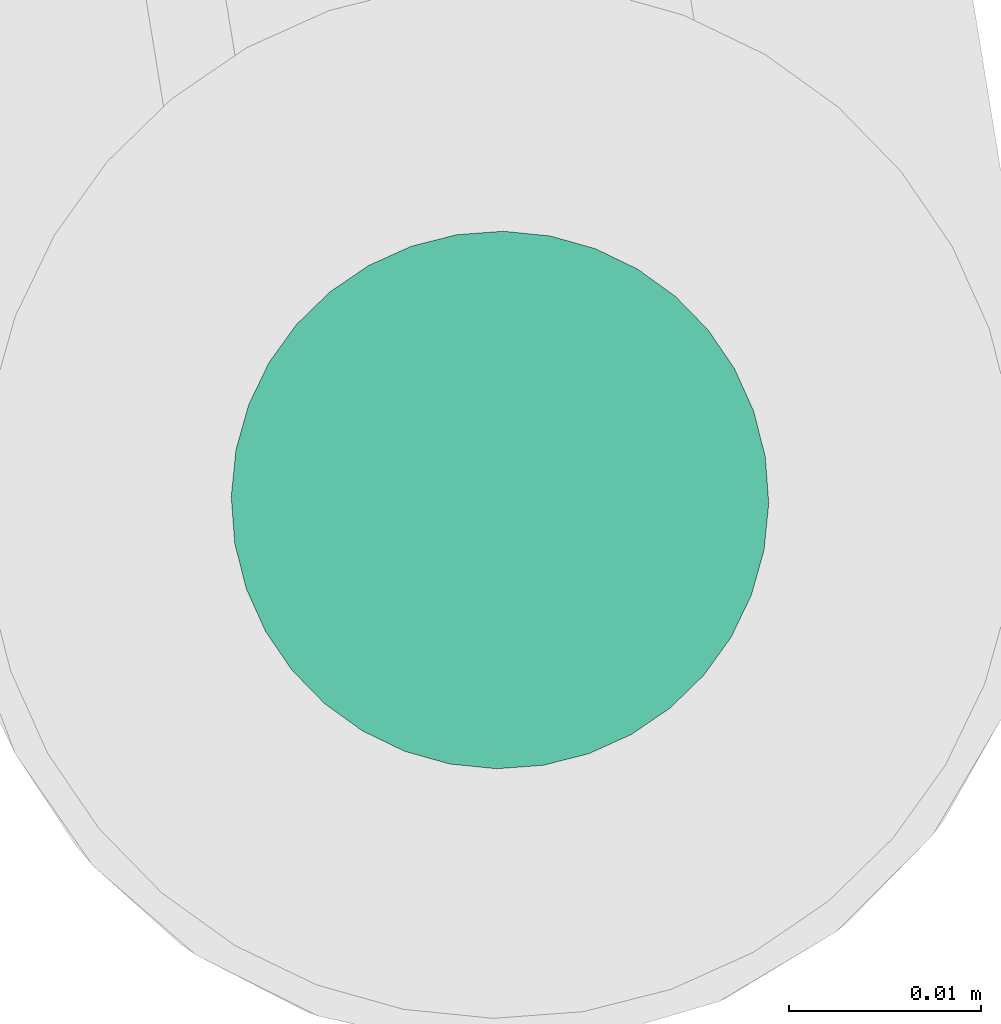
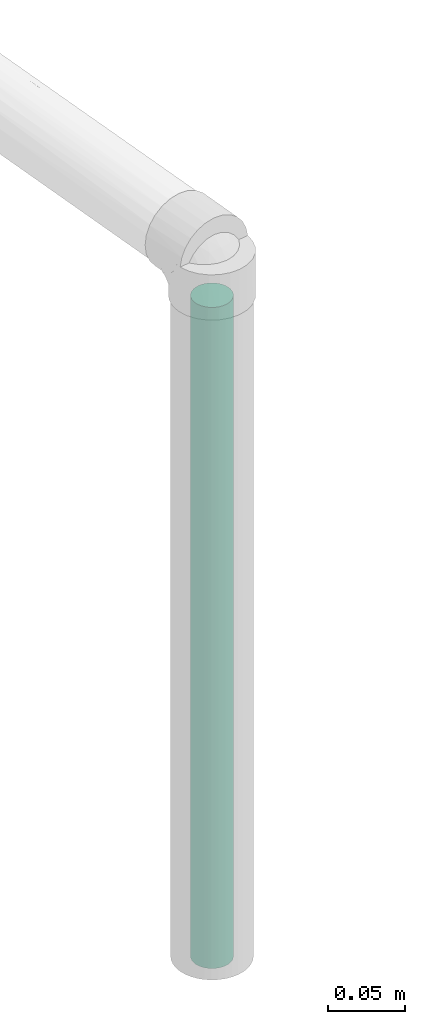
# One storey, part 54 of 56: 1 flow segment.
"""IFC2X3 building model written with IfcOpenShell, lengths in millimetres."""

from ifc_helpers import new_model, entity, si_unit, converted_unit, derived_unit, direction, frame, origin, origin_with_axes, place, context, subcontext, project, spatial, faceted_brep, material, type_object, element, save


model = new_model("IFC2X3")

# Units and contexts
model_context = context("Model", 3, precision=0.01, world=origin(), true_north=direction((6.12323399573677e-17, 1.0)))
plan_context = context("Plan", 3, precision=1e-05, world=origin_with_axes())
body_context = subcontext(model_context, "Body", "Model", "MODEL_VIEW")
ifc_project = project(units=[converted_unit("PLANEANGLEUNIT", "DEGREE", entity("IfcPositiveLengthMeasure", 0.0174532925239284), si_unit("PLANEANGLEUNIT", "RADIAN"), dimensions=[0, 0, 0, 0, 0, 0, 0]), si_unit("AREAUNIT", "SQUARE_METRE"), si_unit("LENGTHUNIT", "METRE", prefix="MILLI"), si_unit("MASSUNIT", "GRAM", prefix="KILO"), si_unit("POWERUNIT", "WATT"), si_unit("PRESSUREUNIT", "PASCAL", prefix="KILO"), si_unit("FORCEUNIT", "NEWTON", prefix="KILO"), si_unit("ELECTRICVOLTAGEUNIT", "VOLT"), si_unit("ELECTRICCURRENTUNIT", "AMPERE"), si_unit("THERMODYNAMICTEMPERATUREUNIT", "DEGREE_CELSIUS"), si_unit("TIMEUNIT", "SECOND"), si_unit("VOLUMEUNIT", "CUBIC_METRE"), derived_unit("LINEARVELOCITYUNIT", [(si_unit("LENGTHUNIT", "METRE"), 1), (si_unit("TIMEUNIT", "SECOND"), -1)]), derived_unit("VOLUMETRICFLOWRATEUNIT", [(si_unit("VOLUMEUNIT", "CUBIC_METRE"), 1), (si_unit("TIMEUNIT", "SECOND"), -1)]), derived_unit("THERMALTRANSMITTANCEUNIT", [(si_unit("POWERUNIT", "WATT"), 1), (si_unit("THERMODYNAMICTEMPERATUREUNIT", "KELVIN"), -1), (si_unit("AREAUNIT", "SQUARE_METRE"), -1)]), derived_unit("SOUNDPRESSUREUNIT", [(si_unit("PRESSUREUNIT", "PASCAL"), 1)])], contexts=[model_context, plan_context])

# Site, building, storey
site_placement = place(None, frame((-3.09682673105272e-06, 1.93776733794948e-05, 0.0), z_axis=(0.0, 0.0, 1.0), x_axis=(-0.160806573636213, 0.986985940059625, 0.0)))
site = spatial("IfcSite", under=ifc_project, at=site_placement, Name="Default", CompositionType="ELEMENT")
building_placement = place(site_placement, frame((0.0, 0.0, 0.0), z_axis=(0.0, 0.0, 1.0), x_axis=(1.0, -2.77555756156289e-17, 0.0)))
building = spatial("IfcBuilding", under=site, at=building_placement, Name="Bygning (endres i Project Information)", CompositionType="ELEMENT")
storey_placement = place(building_placement, frame((0.0, 0.0, 51360.0000000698), z_axis=(0.0, 0.0, 1.0), x_axis=(1.0, -2.77555756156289e-17, 0.0)))
storey = spatial("IfcBuildingStorey", under=building, at=storey_placement, Name="H01-Nivå D+0,36", CompositionType="ELEMENT", Elevation=51360.0000000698)

# Flow segment
ifc_material = material(Name="3103.001 KV")
pipe_segment_type = type_object("IfcPipeSegmentType", Name="Pipe Types:Kobberrør", PredefinedType="NOTDEFINED", material=ifc_material)
flow_segment_placement = place(storey_placement, frame((0.0, 0.0, 0.0), z_axis=(0.0, 0.0, 1.0), x_axis=(1.0, -2.77555756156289e-17, 0.0)))
element("IfcFlowSegment", 1, at=flow_segment_placement, inside=storey, type_object=pipe_segment_type, Name="Pipe Types:Kobberrør", ObjectType="Pipe Types:Kobberrør", context=body_context, shape_type="Brep", body=[
    faceted_brep([(993003.111795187, -384350.157958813, 3139.99999993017), (993002.899103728, -384352.589033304, 3139.99999993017), (993002.899103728, -384352.589033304, 3666.00000000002), (993003.111795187, -384350.157958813, 3666.00000000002), (993002.899103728, -384347.726884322, 3139.99999993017), (993002.899103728, -384347.726884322, 3666.00000000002), (993002.267491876, -384345.3696768, 3139.99999993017), (993002.267491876, -384345.3696768, 3666.00000000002), (993001.236150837, -384343.157958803, 3139.99999993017), (993001.236150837, -384343.157958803, 3666.00000000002), (992999.836417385, -384341.158932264, 3139.99999993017), (992999.836417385, -384341.158932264, 3666.00000000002), (992998.110821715, -384339.433336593, 3139.99999993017), (992998.110821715, -384339.433336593, 3666.00000000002), (992996.111795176, -384338.033603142, 3139.99999993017), (992996.111795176, -384338.033603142, 3666.00000000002), (992993.900077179, -384337.002262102, 3139.99999993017), (992993.900077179, -384337.002262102, 3666.00000000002), (992991.542869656, -384336.37065025, 3139.99999993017), (992991.542869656, -384336.37065025, 3666.00000000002), (992989.111795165, -384336.157958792, 3139.99999993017), (992989.111795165, -384336.157958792, 3666.00000000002), (992986.680720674, -384336.37065025, 3139.99999993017), (992986.680720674, -384336.37065025, 3666.00000000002), (992984.323513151, -384337.002262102, 3139.99999993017), (992984.323513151, -384337.002262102, 3666.00000000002), (992982.111795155, -384338.033603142, 3139.99999993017), (992982.111795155, -384338.033603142, 3666.00000000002), (992980.112768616, -384339.433336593, 3139.99999993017), (992980.112768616, -384339.433336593, 3666.00000000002), (992978.387172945, -384341.158932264, 3139.99999993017), (992978.387172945, -384341.158932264, 3666.00000000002), (992976.987439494, -384343.157958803, 3139.99999993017), (992976.987439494, -384343.157958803, 3666.00000000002), (992975.956098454, -384345.3696768, 3139.99999993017), (992975.956098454, -384345.3696768, 3666.00000000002), (992975.324486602, -384347.726884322, 3139.99999993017), (992975.324486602, -384347.726884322, 3666.00000000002), (992975.111795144, -384350.157958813, 3139.99999993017), (992975.111795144, -384350.157958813, 3666.00000000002), (992975.324486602, -384352.589033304, 3139.99999993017), (992975.324486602, -384352.589033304, 3666.00000000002), (992975.956098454, -384354.946240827, 3139.99999993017), (992975.956098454, -384354.946240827, 3666.00000000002), (992976.987439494, -384357.157958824, 3139.99999993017), (992976.987439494, -384357.157958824, 3666.00000000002), (992978.387172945, -384359.156985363, 3139.99999993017), (992978.387172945, -384359.156985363, 3666.00000000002), (992980.112768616, -384360.882581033, 3139.99999993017), (992980.112768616, -384360.882581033, 3666.00000000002), (992982.111795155, -384362.282314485, 3139.99999993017), (992982.111795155, -384362.282314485, 3666.00000000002), (992984.323513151, -384363.313655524, 3139.99999993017), (992984.323513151, -384363.313655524, 3666.00000000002), (992986.680720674, -384363.945267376, 3139.99999993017), (992986.680720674, -384363.945267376, 3666.00000000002), (992989.111795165, -384364.157958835, 3139.99999993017), (992989.111795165, -384364.157958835, 3666.00000000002), (992991.542869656, -384363.945267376, 3139.99999993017), (992991.542869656, -384363.945267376, 3666.00000000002), (992993.900077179, -384363.313655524, 3139.99999993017), (992993.900077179, -384363.313655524, 3666.00000000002), (992996.111795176, -384362.282314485, 3139.99999993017), (992996.111795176, -384362.282314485, 3666.00000000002), (992998.110821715, -384360.882581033, 3139.99999993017), (992998.110821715, -384360.882581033, 3666.00000000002), (992999.836417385, -384359.156985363, 3139.99999993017), (992999.836417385, -384359.156985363, 3666.00000000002), (993001.236150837, -384357.157958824, 3139.99999993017), (993001.236150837, -384357.157958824, 3666.00000000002), (993002.267491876, -384354.946240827, 3139.99999993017), (993002.267491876, -384354.946240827, 3666.00000000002)], [[[0, 1, 2, 3]], [[4, 0, 3, 5]], [[6, 4, 5, 7]], [[8, 6, 7, 9]], [[10, 8, 9, 11]], [[12, 10, 11, 13]], [[14, 12, 13, 15]], [[16, 14, 15, 17]], [[18, 16, 17, 19]], [[20, 18, 19, 21]], [[22, 20, 21, 23]], [[24, 22, 23, 25]], [[26, 24, 25, 27]], [[28, 26, 27, 29]], [[30, 28, 29, 31]], [[32, 30, 31, 33]], [[34, 32, 33, 35]], [[36, 34, 35, 37]], [[38, 36, 37, 39]], [[40, 38, 39, 41]], [[42, 40, 41, 43]], [[44, 42, 43, 45]], [[46, 44, 45, 47]], [[48, 46, 47, 49]], [[50, 48, 49, 51]], [[52, 50, 51, 53]], [[54, 52, 53, 55]], [[56, 54, 55, 57]], [[58, 56, 57, 59]], [[60, 58, 59, 61]], [[62, 60, 61, 63]], [[64, 62, 63, 65]], [[66, 64, 65, 67]], [[68, 66, 67, 69]], [[70, 68, 69, 71]], [[1, 70, 71, 2]], [[3, 2, 71, 69, 67, 65, 63, 61, 59, 57, 55, 53, 51, 49, 47, 45, 43, 41, 39, 37, 35, 33, 31, 29, 27, 25, 23, 21, 19, 17, 15, 13, 11, 9, 7, 5]], [[4, 6, 8, 10, 12, 14, 16, 18, 20, 22, 24, 26, 28, 30, 32, 34, 36, 38, 40, 42, 44, 46, 48, 50, 52, 54, 56, 58, 60, 62, 64, 66, 68, 70, 1, 0]]], orient=[[False], [False], [False], [False], [False], [False], [False], [False], [False], [False], [False], [False], [False], [False], [False], [False], [False], [False], [False], [False], [False], [False], [False], [False], [False], [False], [False], [False], [False], [False], [False], [False], [False], [False], [False], [False], [False], [False]]),
])

save(model, "model.ifc")
